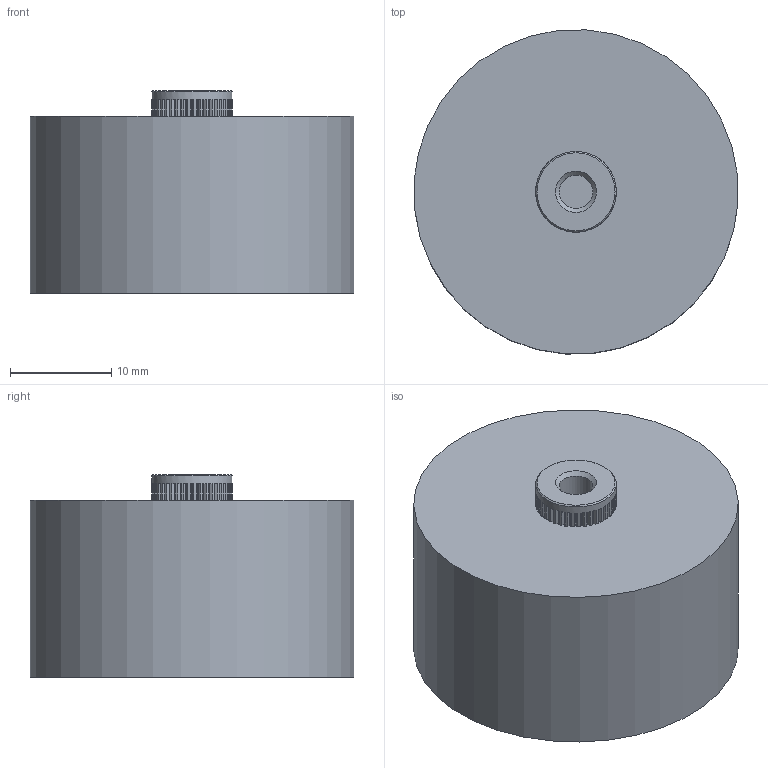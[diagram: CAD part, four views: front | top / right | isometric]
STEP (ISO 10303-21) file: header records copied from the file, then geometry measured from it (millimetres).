
FILE_DESCRIPTION((''),'2;1');
FILE_NAME('I:\Marketing\M6t1\M6T1 - Internal\Drawings\Werk 3\Finished product\Ceramite\Upload for homepage\715\715C###KT###\715C15KTD10.stp','2013-06-10T13:52:46',('sherden'),(''),'Autodesk Inventor 2013','Autodesk Inventor 2013','');
FILE_SCHEMA(('AUTOMOTIVE_DESIGN { 1 2 10303 214 0 1 1 1 }'));
Length unit declared in the file: millimetre
Products named in the file (1): 715C15KTD10
Bounding box: 31.93 x 31.93 x 20 mm (x, y, z)
Volume: 14073.5 mm3; surface area: 3716.4 mm2
Topology: 1 solids, 41 shells, 573 faces, 1419 edges, 932 vertices
Faces by surface type: plane 486, cylinder 84, cone 3
Full cylindrical faces by diameter (mm): 3.302 x2, 7.95 x1, 32 x1
Entity records: 17304 total; most frequent: CARTESIAN_POINT 2916, ORIENTED_EDGE 2822, DIRECTION 2810, EDGE_CURVE 1411, VECTOR 1160, LINE 1160, VERTEX_POINT 931, AXIS2_PLACEMENT_3D 825
